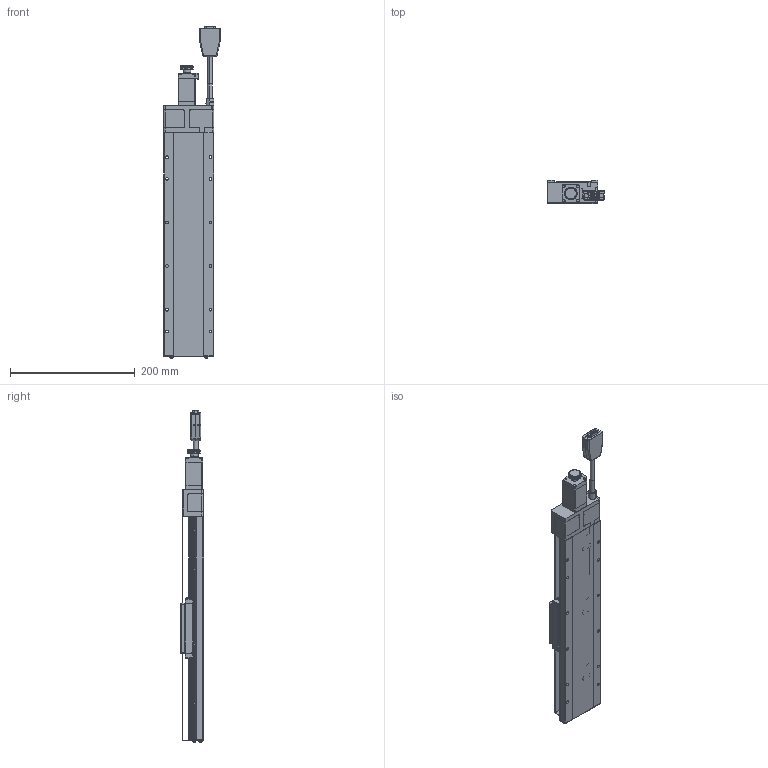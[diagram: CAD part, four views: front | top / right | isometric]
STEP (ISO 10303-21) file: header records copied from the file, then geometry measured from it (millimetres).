
FILE_DESCRIPTION (( 'STEP AP203' ), '1' );
FILE_NAME ('CXC80250-S2?N.STEP', '2023-09-28T08:56:10', ( '' ), ( '' ), 'SwSTEP 2.0', 'SolidWorks 2019', '' );
FILE_SCHEMA (( 'CONFIG_CONTROL_DESIGN' ));
Length unit declared in the file: millimetre
Products named in the file (4): Group2^CXC80250-S2?N_GMT; Group1^CXC80250-S2?N_GMT; CXC80250-S2?N; CXN80-1_GMT
Assembly tree (3 placements, depth 2):
  CXC80250-S2?N
    Group1^CXC80250-S2?N_GMT
    Group2^CXC80250-S2?N_GMT
    CXN80-1_GMT
Bounding box: 90.5 x 37 x 533.25 mm (x, y, z)
Volume: 71768.7 mm3; surface area: 235215.9 mm2
Topology: 22 solids, 26 shells, 4514 faces, 11701 edges, 7274 vertices
Faces by surface type: plane 1806, cylinder 1261, cone 480, torus 416, bspline 403, sphere 148
Entity records: 157674 total; most frequent: CARTESIAN_POINT 49165, ORIENTED_EDGE 23130, DIRECTION 22224, EDGE_CURVE 11565, AXIS2_PLACEMENT_3D 8232, VERTEX_POINT 7266, VECTOR 5760, LINE 5760
